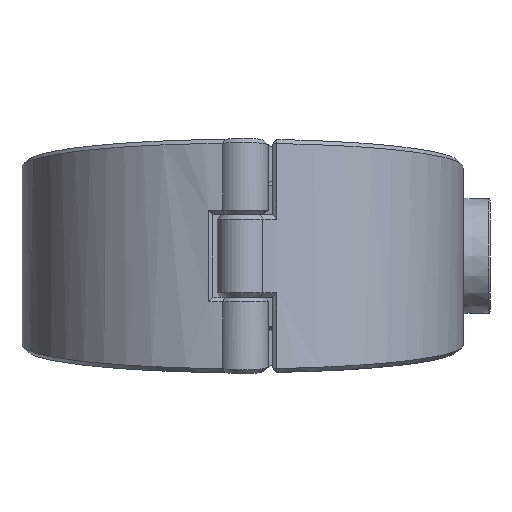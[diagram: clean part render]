
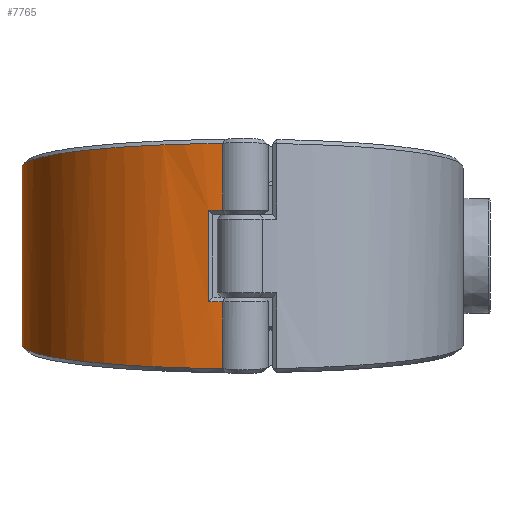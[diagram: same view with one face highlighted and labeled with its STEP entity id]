
A CAD part, front view. The second image highlights one B-rep face of the part: STEP entity #7765.
In plain terms, the highlighted cylindrical face has radius 99 mm (diameter 198 mm), a partial arc.
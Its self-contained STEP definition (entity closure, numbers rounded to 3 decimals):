
#263=CYLINDRICAL_SURFACE('',#8320,99.);
#584=FACE_OUTER_BOUND('',#1104,.T.);
#1104=EDGE_LOOP('',(#5280,#5281,#5282,#5283,#5284,#5285,#5286,#5287,#5288,
#5289,#5290,#5291));
#1644=B_SPLINE_CURVE_WITH_KNOTS('',3,(#11843,#11844,#11845,#11846),
 .UNSPECIFIED.,.F.,.F.,(4,4),(-0.001,0.),.UNSPECIFIED.);
#1645=B_SPLINE_CURVE_WITH_KNOTS('',3,(#11848,#11849,#11850,#11851),
 .UNSPECIFIED.,.F.,.F.,(4,4),(-3.05,-3.05),
 .UNSPECIFIED.);
#1646=B_SPLINE_CURVE_WITH_KNOTS('',3,(#11853,#11854,#11855,#11856,#11857,
#11858,#11859,#11860,#11861,#11862),.UNSPECIFIED.,.F.,.F.,(4,1,1,1,1,1,
1,4),(0.317,0.649,1.051,1.453,
1.855,2.256,2.658,3.05),
 .UNSPECIFIED.);
#1647=B_SPLINE_CURVE_WITH_KNOTS('',3,(#11866,#11867,#11868,#11869,#11870,
#11871,#11872,#11873,#11874,#11875),.UNSPECIFIED.,.F.,.F.,(4,1,1,1,1,1,
1,4),(-3.05,-2.658,-2.256,-1.855,
-1.453,-1.051,-0.649,-0.317),
 .UNSPECIFIED.);
#1648=B_SPLINE_CURVE_WITH_KNOTS('',3,(#11877,#11878,#11879,#11880),
 .UNSPECIFIED.,.F.,.F.,(4,4),(3.05,3.05),
 .UNSPECIFIED.);
#1649=B_SPLINE_CURVE_WITH_KNOTS('',3,(#11882,#11883,#11884,#11885),
 .UNSPECIFIED.,.F.,.F.,(4,4),(-0.362,-0.361),
 .UNSPECIFIED.);
#1921=LINE('',#11777,#2291);
#1927=LINE('',#11841,#2297);
#1928=LINE('',#11864,#2298);
#1929=LINE('',#11886,#2299);
#2291=VECTOR('',#9336,10.);
#2297=VECTOR('',#9382,10.);
#2298=VECTOR('',#9383,10.);
#2299=VECTOR('',#9384,10.);
#2666=CIRCLE('',#8310,99.);
#2669=CIRCLE('',#8315,99.);
#3229=VERTEX_POINT('',#11771);
#3230=VERTEX_POINT('',#11776);
#3236=VERTEX_POINT('',#11797);
#3239=VERTEX_POINT('',#11818);
#3243=VERTEX_POINT('',#11840);
#3244=VERTEX_POINT('',#11842);
#3245=VERTEX_POINT('',#11847);
#3246=VERTEX_POINT('',#11852);
#3247=VERTEX_POINT('',#11863);
#3248=VERTEX_POINT('',#11865);
#3249=VERTEX_POINT('',#11876);
#3250=VERTEX_POINT('',#11881);
#3984=EDGE_CURVE('',#3229,#3230,#1921,.T.);
#3997=EDGE_CURVE('',#3236,#3229,#2666,.T.);
#4002=EDGE_CURVE('',#3230,#3239,#2669,.T.);
#4008=EDGE_CURVE('',#3243,#3236,#1927,.T.);
#4009=EDGE_CURVE('',#3244,#3243,#1644,.T.);
#4010=EDGE_CURVE('',#3244,#3245,#1645,.T.);
#4011=EDGE_CURVE('',#3246,#3245,#1646,.T.);
#4012=EDGE_CURVE('',#3247,#3246,#1928,.T.);
#4013=EDGE_CURVE('',#3248,#3247,#1647,.T.);
#4014=EDGE_CURVE('',#3248,#3249,#1648,.T.);
#4015=EDGE_CURVE('',#3250,#3249,#1649,.T.);
#4016=EDGE_CURVE('',#3239,#3250,#1929,.T.);
#5280=ORIENTED_EDGE('',*,*,#4002,.F.);
#5281=ORIENTED_EDGE('',*,*,#3984,.F.);
#5282=ORIENTED_EDGE('',*,*,#3997,.F.);
#5283=ORIENTED_EDGE('',*,*,#4008,.F.);
#5284=ORIENTED_EDGE('',*,*,#4009,.F.);
#5285=ORIENTED_EDGE('',*,*,#4010,.T.);
#5286=ORIENTED_EDGE('',*,*,#4011,.F.);
#5287=ORIENTED_EDGE('',*,*,#4012,.F.);
#5288=ORIENTED_EDGE('',*,*,#4013,.F.);
#5289=ORIENTED_EDGE('',*,*,#4014,.T.);
#5290=ORIENTED_EDGE('',*,*,#4015,.F.);
#5291=ORIENTED_EDGE('',*,*,#4016,.F.);
#7765=ADVANCED_FACE('',(#584),#263,.T.);
#8310=AXIS2_PLACEMENT_3D('',#11813,#9358,#9359);
#8315=AXIS2_PLACEMENT_3D('',#11827,#9368,#9369);
#8320=AXIS2_PLACEMENT_3D('',#11839,#9380,#9381);
#9336=DIRECTION('',(0.,0.,-1.));
#9358=DIRECTION('center_axis',(0.,0.,-1.));
#9359=DIRECTION('ref_axis',(0.312,-0.95,0.));
#9368=DIRECTION('center_axis',(0.,0.,1.));
#9369=DIRECTION('ref_axis',(0.312,-0.95,0.));
#9380=DIRECTION('center_axis',(0.,0.,1.));
#9381=DIRECTION('ref_axis',(-0.312,0.95,0.));
#9382=DIRECTION('',(0.,0.,-1.));
#9383=DIRECTION('',(0.,0.,1.));
#9384=DIRECTION('',(0.,0.,-1.));
#11771=CARTESIAN_POINT('',(-15.279,-97.814,20.55));
#11776=CARTESIAN_POINT('',(-15.279,-97.814,-20.55));
#11777=CARTESIAN_POINT('',(-15.279,-97.814,0.));
#11797=CARTESIAN_POINT('',(-9.014,-98.589,20.55));
#11813=CARTESIAN_POINT('Origin',(0.,0.,20.55));
#11818=CARTESIAN_POINT('',(-9.014,-98.589,-20.55));
#11827=CARTESIAN_POINT('Origin',(0.,0.,-20.55));
#11839=CARTESIAN_POINT('Origin',(0.,0.,0.));
#11840=CARTESIAN_POINT('',(-9.014,-98.589,50.522));
#11841=CARTESIAN_POINT('',(-9.014,-98.589,0.));
#11842=CARTESIAN_POINT('',(-9.005,-98.59,50.53));
#11843=CARTESIAN_POINT('Ctrl Pts',(-9.005,-98.59,
50.53));
#11844=CARTESIAN_POINT('Ctrl Pts',(-9.008,-98.589,
50.527));
#11845=CARTESIAN_POINT('Ctrl Pts',(-9.011,-98.589,
50.525));
#11846=CARTESIAN_POINT('Ctrl Pts',(-9.014,-98.589,
50.522));
#11847=CARTESIAN_POINT('',(-9.014,-98.589,50.53));
#11848=CARTESIAN_POINT('Ctrl Pts',(-9.004,-98.59,
50.53));
#11849=CARTESIAN_POINT('Ctrl Pts',(-9.008,-98.589,
50.53));
#11850=CARTESIAN_POINT('Ctrl Pts',(-9.011,-98.589,
50.53));
#11851=CARTESIAN_POINT('Ctrl Pts',(-9.014,-98.589,
50.53));
#11852=CARTESIAN_POINT('',(-30.913,94.05,29.799));
#11853=CARTESIAN_POINT('Ctrl Pts',(-30.912,94.048,29.799));
#11854=CARTESIAN_POINT('Ctrl Pts',(-41.358,90.609,30.168));
#11855=CARTESIAN_POINT('Ctrl Pts',(-63.153,79.165,31.397));
#11856=CARTESIAN_POINT('Ctrl Pts',(-88.387,50.334,34.495));
#11857=CARTESIAN_POINT('Ctrl Pts',(-101.019,11.738,38.645));
#11858=CARTESIAN_POINT('Ctrl Pts',(-97.574,-28.688,
42.996));
#11859=CARTESIAN_POINT('Ctrl Pts',(-78.607,-64.519,46.856));
#11860=CARTESIAN_POINT('Ctrl Pts',(-47.431,-89.877,
49.59));
#11861=CARTESIAN_POINT('Ctrl Pts',(-21.873,-97.411,
50.403));
#11862=CARTESIAN_POINT('Ctrl Pts',(-9.014,-98.589,
50.53));
#11863=CARTESIAN_POINT('',(-30.913,94.05,-29.799));
#11864=CARTESIAN_POINT('',(-30.913,94.05,0.));
#11865=CARTESIAN_POINT('',(-9.014,-98.589,-50.53));
#11866=CARTESIAN_POINT('Ctrl Pts',(-9.014,-98.589,-50.53));
#11867=CARTESIAN_POINT('Ctrl Pts',(-21.873,-97.411,
-50.403));
#11868=CARTESIAN_POINT('Ctrl Pts',(-47.43,-89.878,
-49.59));
#11869=CARTESIAN_POINT('Ctrl Pts',(-78.613,-64.522,
-46.857));
#11870=CARTESIAN_POINT('Ctrl Pts',(-97.565,-28.686,
-42.996));
#11871=CARTESIAN_POINT('Ctrl Pts',(-101.029,11.739,-38.645));
#11872=CARTESIAN_POINT('Ctrl Pts',(-88.382,50.333,-34.495));
#11873=CARTESIAN_POINT('Ctrl Pts',(-63.154,79.164,-31.397));
#11874=CARTESIAN_POINT('Ctrl Pts',(-41.358,90.608,-30.168));
#11875=CARTESIAN_POINT('Ctrl Pts',(-30.912,94.048,-29.799));
#11876=CARTESIAN_POINT('',(-9.005,-98.59,-50.53));
#11877=CARTESIAN_POINT('Ctrl Pts',(-9.014,-98.589,
-50.53));
#11878=CARTESIAN_POINT('Ctrl Pts',(-9.011,-98.589,
-50.53));
#11879=CARTESIAN_POINT('Ctrl Pts',(-9.008,-98.589,
-50.53));
#11880=CARTESIAN_POINT('Ctrl Pts',(-9.004,-98.59,
-50.53));
#11881=CARTESIAN_POINT('',(-9.014,-98.589,-50.522));
#11882=CARTESIAN_POINT('Ctrl Pts',(-9.014,-98.588,
-50.522));
#11883=CARTESIAN_POINT('Ctrl Pts',(-9.011,-98.589,
-50.525));
#11884=CARTESIAN_POINT('Ctrl Pts',(-9.007,-98.589,
-50.527));
#11885=CARTESIAN_POINT('Ctrl Pts',(-9.004,-98.589,
-50.53));
#11886=CARTESIAN_POINT('',(-9.014,-98.589,0.));
